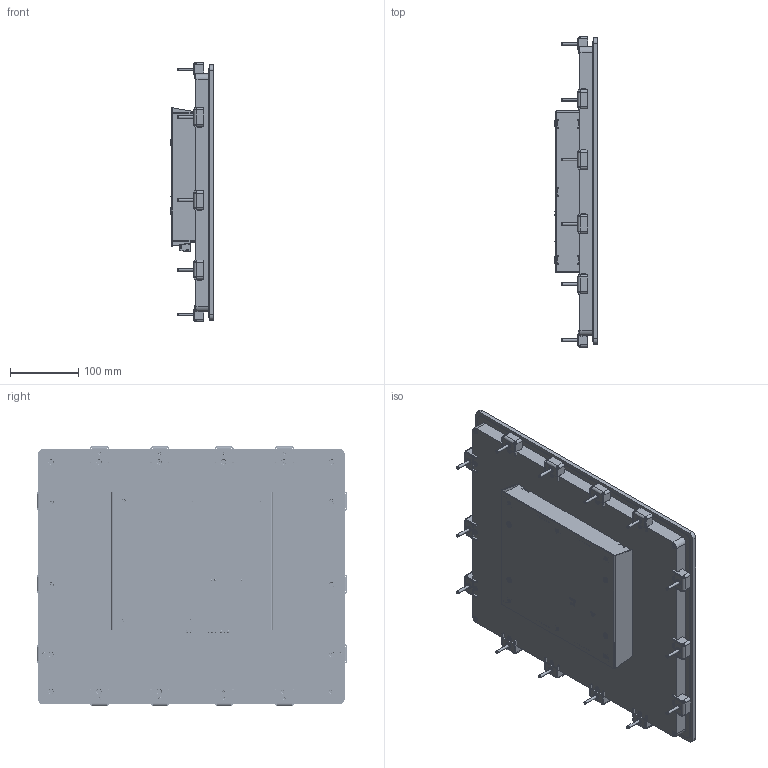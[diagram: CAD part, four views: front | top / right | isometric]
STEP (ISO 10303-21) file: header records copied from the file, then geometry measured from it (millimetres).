
FILE_DESCRIPTION(('STEP AP214'), '1');
FILE_NAME('NLcon-CED19', '', ('UNSPECIFIED'), ('UNSPECIFIED'), 'ASCON STEP Converter 1.6', 'ASCON Math Kernel', '');
FILE_SCHEMA(('AUTOMOTIVE_DESIGN { 1 0 10303 214 3 1 1}'));
Length unit declared in the file: millimetre
Assembly tree (2 placements, depth 2):
  (unnamed)
    (unnamed)
    (unnamed)
Bounding box: 63.4 x 456 x 381 mm (x, y, z)
Volume: 2758471.9 mm3; surface area: 982648.2 mm2
Topology: 15 solids, 15 shells, 10440 faces, 29386 edges, 19285 vertices
Faces by surface type: cylinder 5209, plane 4980, cone 124, torus 42, extrusion 31, bspline 30, sphere 24
Full cylindrical faces by diameter (mm): 1.1 x4, 3 x7, 3.18 x4, 3.242 x4, 3.3 x3, 3.6 x1, 3.95 x8, 4 x35, 4.75 x10, 5 x20, 5.5 x1, 6 x18, 6.5 x14, 6.8 x18, 9 x18
Entity records: 432529 total; most frequent: CARTESIAN_POINT 71218, DIRECTION 59656, ORIENTED_EDGE 58088, EDGE_CURVE 29044, AXIS2_PLACEMENT_3D 20941, VERTEX_POINT 19282, VECTOR 17774, LINE 17743
